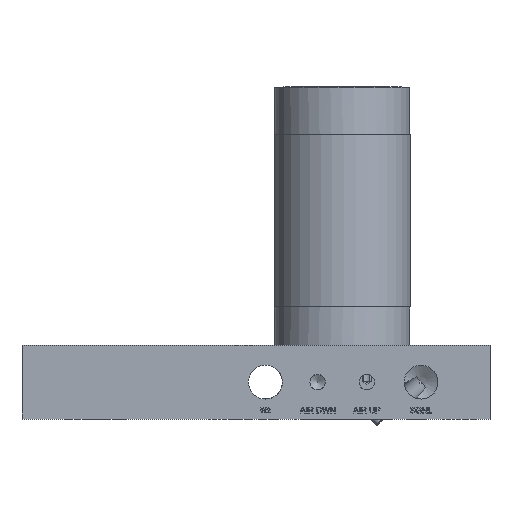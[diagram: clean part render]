
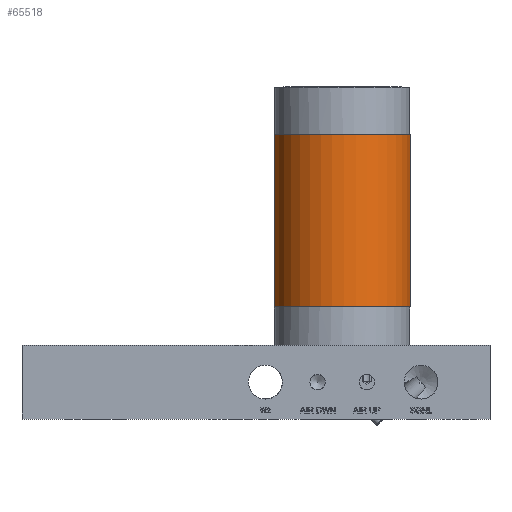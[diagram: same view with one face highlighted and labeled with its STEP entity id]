
A CAD part, front view. The second image highlights one B-rep face of the part: STEP entity #65518.
In plain terms, the highlighted cylindrical face has radius 17.59 mm (diameter 35.179 mm), a full revolution.
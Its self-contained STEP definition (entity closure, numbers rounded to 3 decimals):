
#4110=CYLINDRICAL_SURFACE('',#71365,17.59);
#6899=FACE_OUTER_BOUND('',#10978,.T.);
#10978=EDGE_LOOP('',(#50982,#50983,#50984,#50985));
#19433=CIRCLE('',#71358,17.59);
#19436=CIRCLE('',#71362,17.59);
#20122=LINE('',#171321,#22282);
#22282=VECTOR('',#81637,17.59);
#27442=VERTEX_POINT('',#171307);
#27445=VERTEX_POINT('',#171314);
#35748=EDGE_CURVE('',#27442,#27442,#19433,.T.);
#35751=EDGE_CURVE('',#27445,#27445,#19436,.T.);
#35754=EDGE_CURVE('',#27445,#27442,#20122,.T.);
#50982=ORIENTED_EDGE('',*,*,#35751,.T.);
#50983=ORIENTED_EDGE('',*,*,#35754,.T.);
#50984=ORIENTED_EDGE('',*,*,#35748,.F.);
#50985=ORIENTED_EDGE('',*,*,#35754,.F.);
#65518=ADVANCED_FACE('',(#6899),#4110,.T.);
#71358=AXIS2_PLACEMENT_3D('',#171308,#81621,#81622);
#71362=AXIS2_PLACEMENT_3D('',#171315,#81629,#81630);
#71365=AXIS2_PLACEMENT_3D('',#171320,#81635,#81636);
#81621=DIRECTION('center_axis',(0.,0.,
-1.));
#81622=DIRECTION('ref_axis',(-1.,-0.026,0.));
#81629=DIRECTION('center_axis',(0.,0.,
-1.));
#81630=DIRECTION('ref_axis',(-1.,-0.026,0.));
#81635=DIRECTION('center_axis',(0.,0.,
1.));
#81636=DIRECTION('ref_axis',(-1.,-0.026,0.));
#81637=DIRECTION('',(0.,0.,-1.));
#171307=CARTESIAN_POINT('',(17.583,0.46,28.892));
#171308=CARTESIAN_POINT('Origin',(0.,0.,
28.892));
#171314=CARTESIAN_POINT('',(17.583,0.46,73.342));
#171315=CARTESIAN_POINT('Origin',(0.,0.,
73.342));
#171320=CARTESIAN_POINT('Origin',(0.,0.,
28.892));
#171321=CARTESIAN_POINT('',(17.583,0.46,28.892));
